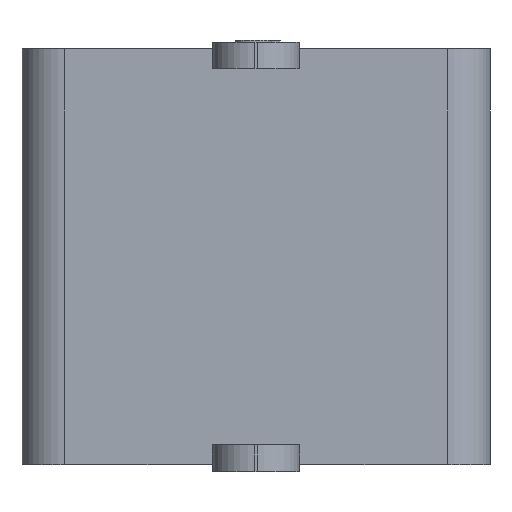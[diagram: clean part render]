
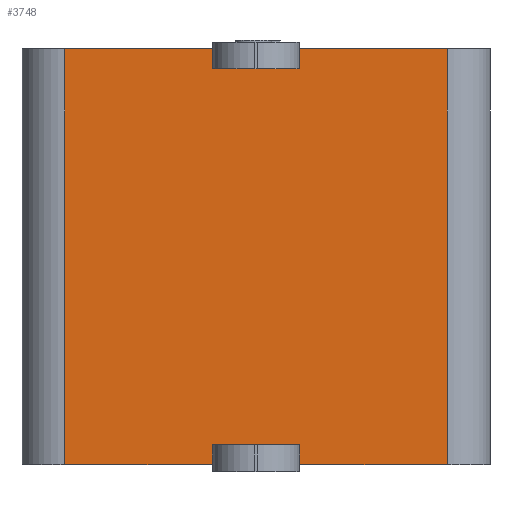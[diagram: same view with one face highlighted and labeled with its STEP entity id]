
A CAD part, front view. The second image highlights one B-rep face of the part: STEP entity #3748.
In plain terms, the highlighted planar face has unit normal (0, -1, 0).
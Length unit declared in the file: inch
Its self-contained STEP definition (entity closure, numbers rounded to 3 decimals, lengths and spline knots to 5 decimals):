
#42=LINE('',#5296,#380);
#62=LINE('',#5513,#400);
#73=LINE('',#5547,#411);
#84=LINE('',#5581,#422);
#98=LINE('',#5608,#436);
#99=LINE('',#5611,#437);
#100=LINE('',#5613,#438);
#101=LINE('',#5614,#439);
#102=LINE('',#5615,#440);
#103=LINE('',#5617,#441);
#104=LINE('',#5619,#442);
#105=LINE('',#5620,#443);
#380=VECTOR('',#4226,0.3937);
#400=VECTOR('',#4316,0.3937);
#411=VECTOR('',#4349,0.3937);
#422=VECTOR('',#4380,0.3937);
#436=VECTOR('',#4410,0.3937);
#437=VECTOR('',#4413,0.3937);
#438=VECTOR('',#4414,0.3937);
#439=VECTOR('',#4415,0.3937);
#440=VECTOR('',#4416,0.3937);
#441=VECTOR('',#4417,0.3937);
#442=VECTOR('',#4418,0.3937);
#443=VECTOR('',#4419,0.3937);
#752=PLANE('',#4033);
#895=FACE_OUTER_BOUND('',#1108,.T.);
#1108=EDGE_LOOP('',(#2729,#2730,#2731,#2732,#2733,#2734,#2735,#2736,#2737,
#2738,#2739,#2740));
#1553=VERTEX_POINT('',#5293);
#1554=VERTEX_POINT('',#5295);
#1591=VERTEX_POINT('',#5510);
#1592=VERTEX_POINT('',#5512);
#1603=VERTEX_POINT('',#5544);
#1604=VERTEX_POINT('',#5546);
#1616=VERTEX_POINT('',#5578);
#1617=VERTEX_POINT('',#5580);
#1623=VERTEX_POINT('',#5610);
#1624=VERTEX_POINT('',#5612);
#1625=VERTEX_POINT('',#5616);
#1626=VERTEX_POINT('',#5618);
#1946=EDGE_CURVE('',#1553,#1554,#42,.T.);
#1997=EDGE_CURVE('',#1591,#1592,#62,.T.);
#2015=EDGE_CURVE('',#1603,#1604,#73,.T.);
#2032=EDGE_CURVE('',#1616,#1617,#84,.T.);
#2048=EDGE_CURVE('',#1554,#1616,#98,.T.);
#2049=EDGE_CURVE('',#1553,#1623,#99,.T.);
#2050=EDGE_CURVE('',#1623,#1624,#100,.T.);
#2051=EDGE_CURVE('',#1624,#1604,#101,.T.);
#2052=EDGE_CURVE('',#1592,#1603,#102,.T.);
#2053=EDGE_CURVE('',#1591,#1625,#103,.T.);
#2054=EDGE_CURVE('',#1625,#1626,#104,.T.);
#2055=EDGE_CURVE('',#1626,#1617,#105,.T.);
#2729=ORIENTED_EDGE('',*,*,#2048,.F.);
#2730=ORIENTED_EDGE('',*,*,#1946,.F.);
#2731=ORIENTED_EDGE('',*,*,#2049,.T.);
#2732=ORIENTED_EDGE('',*,*,#2050,.T.);
#2733=ORIENTED_EDGE('',*,*,#2051,.T.);
#2734=ORIENTED_EDGE('',*,*,#2015,.F.);
#2735=ORIENTED_EDGE('',*,*,#2052,.F.);
#2736=ORIENTED_EDGE('',*,*,#1997,.F.);
#2737=ORIENTED_EDGE('',*,*,#2053,.T.);
#2738=ORIENTED_EDGE('',*,*,#2054,.T.);
#2739=ORIENTED_EDGE('',*,*,#2055,.T.);
#2740=ORIENTED_EDGE('',*,*,#2032,.F.);
#3748=ADVANCED_FACE('',(#895),#752,.T.);
#4033=AXIS2_PLACEMENT_3D('',#5609,#4411,#4412);
#4226=DIRECTION('',(-1.,0.,0.));
#4316=DIRECTION('',(1.,0.,0.));
#4349=DIRECTION('',(-1.,0.,0.));
#4380=DIRECTION('',(1.,0.,0.));
#4410=DIRECTION('',(0.,0.,1.));
#4411=DIRECTION('center_axis',(0.,-1.,0.));
#4412=DIRECTION('ref_axis',(1.,0.,0.));
#4413=DIRECTION('',(0.,0.,1.));
#4414=DIRECTION('',(1.,0.,0.));
#4415=DIRECTION('',(0.,0.,-1.));
#4416=DIRECTION('',(0.,0.,-1.));
#4417=DIRECTION('',(0.,0.,-1.));
#4418=DIRECTION('',(-1.,0.,0.));
#4419=DIRECTION('',(0.,0.,1.));
#5293=CARTESIAN_POINT('',(-0.02559,0.03673,-0.12205));
#5295=CARTESIAN_POINT('',(-0.11237,0.03673,-0.12205));
#5296=CARTESIAN_POINT('',(-0.15748,0.03673,-0.12205));
#5510=CARTESIAN_POINT('',(0.02559,0.03673,0.12205));
#5512=CARTESIAN_POINT('',(0.11237,0.03673,0.12205));
#5513=CARTESIAN_POINT('',(-0.15748,0.03673,0.12205));
#5544=CARTESIAN_POINT('',(0.11237,0.03673,-0.12205));
#5546=CARTESIAN_POINT('',(0.02559,0.03673,-0.12205));
#5547=CARTESIAN_POINT('',(-0.15748,0.03673,-0.12205));
#5578=CARTESIAN_POINT('',(-0.11237,0.03673,0.12205));
#5580=CARTESIAN_POINT('',(-0.02559,0.03673,0.12205));
#5581=CARTESIAN_POINT('',(-0.15748,0.03673,0.12205));
#5608=CARTESIAN_POINT('',(-0.11237,0.03673,0.));
#5609=CARTESIAN_POINT('Origin',(-0.15748,0.03673,0.));
#5610=CARTESIAN_POINT('',(-0.02559,0.03673,-0.11024));
#5611=CARTESIAN_POINT('',(-0.02559,0.03673,-0.05912));
#5612=CARTESIAN_POINT('',(0.02559,0.03673,-0.11024));
#5613=CARTESIAN_POINT('',(-0.07874,0.03673,-0.11024));
#5614=CARTESIAN_POINT('',(0.02559,0.03673,-0.05912));
#5615=CARTESIAN_POINT('',(0.11237,0.03673,0.));
#5616=CARTESIAN_POINT('',(0.02559,0.03673,0.11024));
#5617=CARTESIAN_POINT('',(0.02559,0.03673,0.05912));
#5618=CARTESIAN_POINT('',(-0.02559,0.03673,0.11024));
#5619=CARTESIAN_POINT('',(-0.07874,0.03673,0.11024));
#5620=CARTESIAN_POINT('',(-0.02559,0.03673,0.05912));
